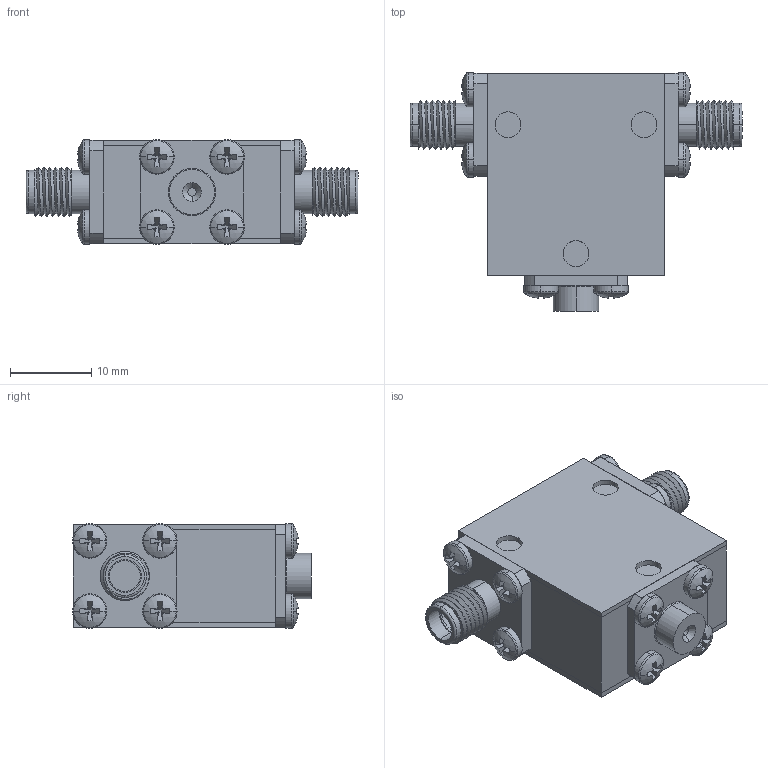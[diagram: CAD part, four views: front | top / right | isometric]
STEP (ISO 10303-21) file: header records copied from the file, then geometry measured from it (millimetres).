
FILE_DESCRIPTION (( 'STEP AP214' ), '1' );
FILE_NAME ('Package 4 Iso FF.step', '2021-12-01T21:00:44', ( '' ), ( '' ), 'SwSTEP 2.0', 'SolidWorks 2016', '' );
FILE_SCHEMA (( 'AUTOMOTIVE_DESIGN' ));
Length unit declared in the file: inch
Products named in the file (6): Package 4 Iso FF; Delta SMA-Female 0.500 flange Threaded; Package 4; 030013-1A; pan cross head_ai_CR-PHMS 0.086-56x0.125x0.125-N; Package Size 4
Assembly tree (17 placements, depth 2):
  Package 4 Iso FF
    Package Size 4
    Package 4
    Delta SMA-Female 0.500 flange Threaded  x2
    030013-1A
    pan cross head_ai_CR-PHMS 0.086-56x0.125x0.125-N  x12
Bounding box: 40.89 x 29.43 x 12.88 mm (x, y, z)
Volume: 8021.9 mm3; surface area: 7479 mm2
Topology: 17 solids, 17 shells, 414 faces, 942 edges, 582 vertices
Faces by surface type: plane 228, cylinder 122, torus 30, sphere 24, bspline 6, cone 4
Entity records: 4765 total; most frequent: CARTESIAN_POINT 1369, DIRECTION 717, ORIENTED_EDGE 594, EDGE_CURVE 297, AXIS2_PLACEMENT_3D 289, VERTEX_POINT 191, EDGE_LOOP 160, CIRCLE 150
